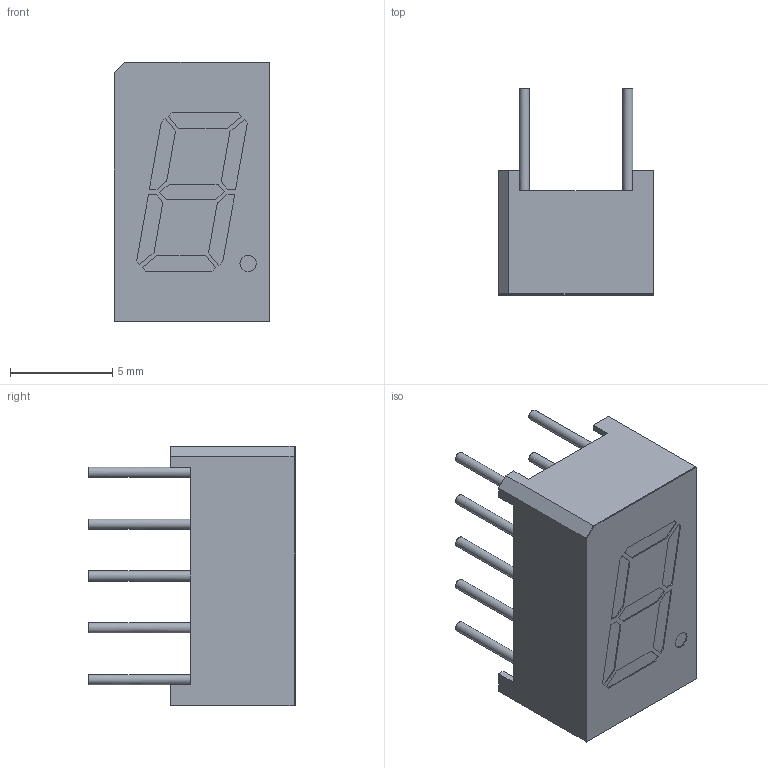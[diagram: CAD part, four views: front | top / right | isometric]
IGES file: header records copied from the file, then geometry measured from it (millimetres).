
Start section: Data from Parasolid IGES Translator 26.1.183, Copyright(c) 2006 Siemens PLM Software. All Rights Reserved.
Global section: file name: 656a3a8ad1cae84eec2caec5.iges; native system: By Siemens PLM Incorporated; preprocessor: XPlus GENERIC/IGES 26.1.183; author: Noname; organization: Noname; date: 20231201.195659; units: metre
Bounding box: 7.6 x 10.1 x 12.7 mm (x, y, z)
Surface area: 1299.3 mm2 (no closed solid volume)
Topology: 0 solids, 0 shells, 274 faces, 1378 edges, 1330 vertices
Faces by surface type: extrusion 261, revolution 13
